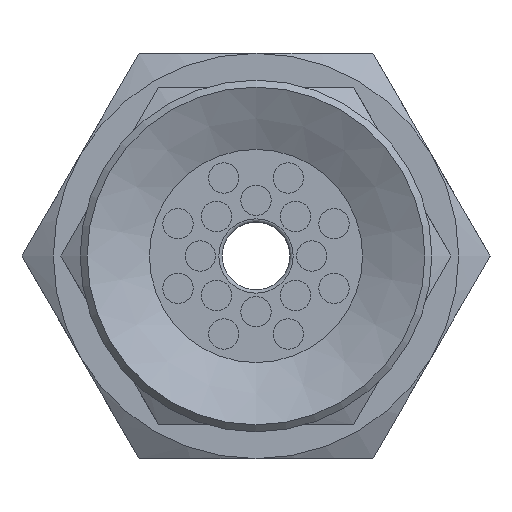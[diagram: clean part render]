
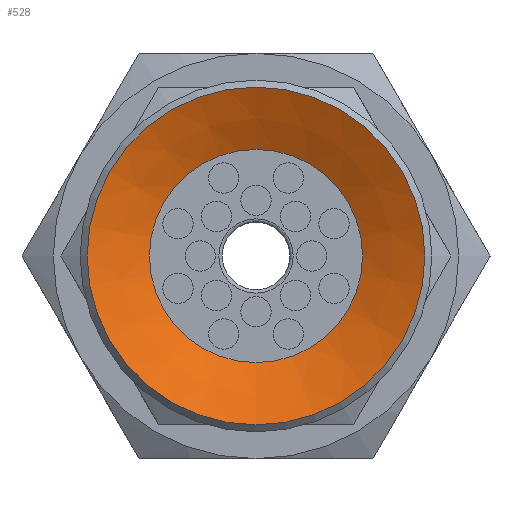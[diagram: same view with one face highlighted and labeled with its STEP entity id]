
A CAD part, front view. The second image highlights one B-rep face of the part: STEP entity #528.
In plain terms, the highlighted conical face has half-angle 64 degrees and reference radius 5 mm.
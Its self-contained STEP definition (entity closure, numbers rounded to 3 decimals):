
#528=ADVANCED_FACE('',(#792,#793),#794,.F.);
#792=FACE_BOUND('',#1167,.T.);
#793=FACE_OUTER_BOUND('',#1168,.T.);
#794=CONICAL_SURFACE('',#1169,5.0,1.117);
#1167=EDGE_LOOP('',(#1837));
#1168=EDGE_LOOP('',(#1838));
#1169=AXIS2_PLACEMENT_3D('',#1839,#1840,#1841);
#1837=ORIENTED_EDGE('',*,*,#2322,.T.);
#1838=ORIENTED_EDGE('',*,*,#2323,.F.);
#1839=CARTESIAN_POINT('',(0.0,0.,0.));
#1840=DIRECTION('',(0.0,0.,-1.0));
#1841=DIRECTION('',(0.0,1.0,0.));
#2322=EDGE_CURVE('',#2632,#2632,#2633,.T.);
#2323=EDGE_CURVE('',#2634,#2634,#2635,.T.);
#2632=VERTEX_POINT('',#3308);
#2633=CIRCLE('',#3309,3.155);
#2634=VERTEX_POINT('',#3310);
#2635=CIRCLE('',#3311,5.0);
#3308=CARTESIAN_POINT('',(0.0,-3.155,0.9));
#3309=AXIS2_PLACEMENT_3D('',#3688,#3689,#3690);
#3310=CARTESIAN_POINT('',(0.0,-5.0,0.));
#3311=AXIS2_PLACEMENT_3D('',#3691,#3692,#3693);
#3688=CARTESIAN_POINT('',(0.0,0.,0.9));
#3689=DIRECTION('',(0.0,0.,1.0));
#3690=DIRECTION('',(0.0,-1.0,0.));
#3691=CARTESIAN_POINT('',(0.0,0.,0.));
#3692=DIRECTION('',(0.0,0.,1.0));
#3693=DIRECTION('',(0.0,-1.0,0.));
